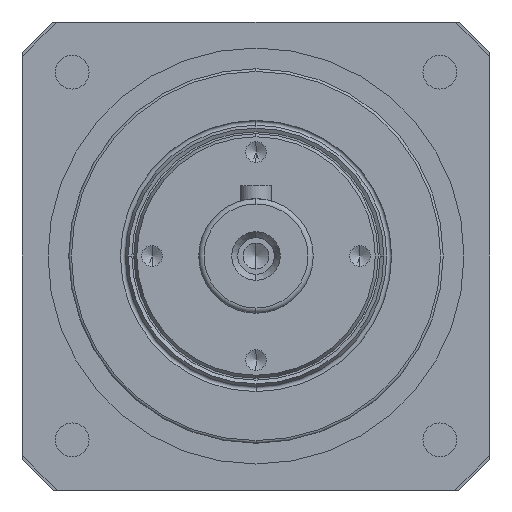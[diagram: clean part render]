
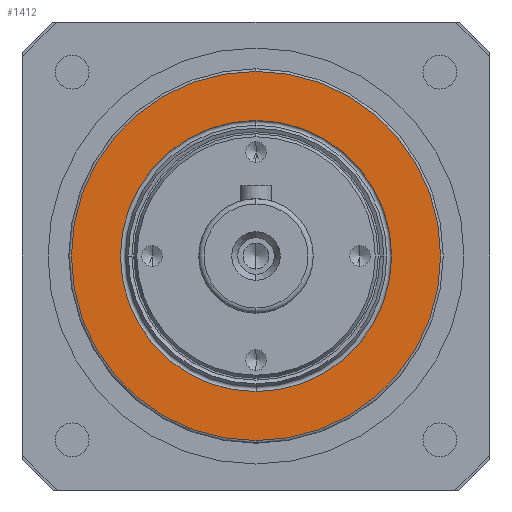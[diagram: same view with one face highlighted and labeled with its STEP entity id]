
A CAD part, left-side view. The second image highlights one B-rep face of the part: STEP entity #1412.
In plain terms, the highlighted planar face has unit normal (-1, 0, 0) as drawn and (0, -1, 0) by its records, which use the part's own axes.
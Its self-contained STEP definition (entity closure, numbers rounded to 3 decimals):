
#1412 = ADVANCED_FACE ( 'NONE', ( #20452, #22853 ), #10276, .T. ) ;
#2606 = AXIS2_PLACEMENT_3D ( 'NONE', #32968, #2620, #7053 ) ;
#2620 = DIRECTION ( 'NONE',  ( 0., -1., 0. ) ) ;
#2801 = VERTEX_POINT ( 'NONE', #7688 ) ;
#2873 = CIRCLE ( 'NONE', #30031, 26.073 ) ;
#3351 = DIRECTION ( 'NONE',  ( 0., 0., 1. ) ) ;
#3381 = DIRECTION ( 'NONE',  ( 0., -1., 0. ) ) ;
#3418 = CARTESIAN_POINT ( 'NONE',  ( 0., 0., 0. ) ) ;
#3687 = EDGE_CURVE ( 'NONE', #13312, #2801, #24610, .T. ) ;
#5017 = DIRECTION ( 'NONE',  ( 0., 1., 0. ) ) ;
#5051 = DIRECTION ( 'NONE',  ( 0., 0., 1. ) ) ;
#5405 = CIRCLE ( 'NONE', #14574, 35.5 ) ;
#5768 = CARTESIAN_POINT ( 'NONE',  ( 0., 0., 26.073 ) ) ;
#6124 = EDGE_CURVE ( 'NONE', #30075, #26554, #5405, .T. ) ;
#7053 = DIRECTION ( 'NONE',  ( 0., 0., -1. ) ) ;
#7453 = DIRECTION ( 'NONE',  ( 0., 0., 1. ) ) ;
#7465 = DIRECTION ( 'NONE',  ( 0., -1., 0. ) ) ;
#7506 = CARTESIAN_POINT ( 'NONE',  ( 0., 0., 0. ) ) ;
#7688 = CARTESIAN_POINT ( 'NONE',  ( 0., 0., -26.073 ) ) ;
#8740 = ORIENTED_EDGE ( 'NONE', *, *, #6124, .T. ) ;
#9236 = CIRCLE ( 'NONE', #35273, 35.5 ) ;
#9491 = ORIENTED_EDGE ( 'NONE', *, *, #17563, .T. ) ;
#10240 = CARTESIAN_POINT ( 'NONE',  ( 0., 0., 35.5 ) ) ;
#10276 = PLANE ( 'NONE',  #2606 ) ;
#13312 = VERTEX_POINT ( 'NONE', #5768 ) ;
#14574 = AXIS2_PLACEMENT_3D ( 'NONE', #3418, #3381, #3351 ) ;
#16588 = DIRECTION ( 'NONE',  ( 0., 0., 1. ) ) ;
#16638 = DIRECTION ( 'NONE',  ( 0., 1., 0. ) ) ;
#16671 = CARTESIAN_POINT ( 'NONE',  ( 0., 0., 0. ) ) ;
#17563 = EDGE_CURVE ( 'NONE', #2801, #13312, #2873, .T. ) ;
#20428 = EDGE_CURVE ( 'NONE', #26554, #30075, #9236, .T. ) ;
#20452 = FACE_BOUND ( 'NONE', #31257, .T. ) ;
#21221 = ORIENTED_EDGE ( 'NONE', *, *, #3687, .T. ) ;
#22853 = FACE_OUTER_BOUND ( 'NONE', #29322, .T. ) ;
#23367 = ORIENTED_EDGE ( 'NONE', *, *, #20428, .T. ) ;
#24610 = CIRCLE ( 'NONE', #32372, 26.073 ) ;
#25618 = CARTESIAN_POINT ( 'NONE',  ( 0., 0., 0. ) ) ;
#26554 = VERTEX_POINT ( 'NONE', #33407 ) ;
#29322 = EDGE_LOOP ( 'NONE', ( #8740, #23367 ) ) ;
#30031 = AXIS2_PLACEMENT_3D ( 'NONE', #16671, #16638, #16588 ) ;
#30075 = VERTEX_POINT ( 'NONE', #10240 ) ;
#31257 = EDGE_LOOP ( 'NONE', ( #21221, #9491 ) ) ;
#32372 = AXIS2_PLACEMENT_3D ( 'NONE', #25618, #5017, #5051 ) ;
#32968 = CARTESIAN_POINT ( 'NONE',  ( 0., 0., 35.5 ) ) ;
#33407 = CARTESIAN_POINT ( 'NONE',  ( 0., 0., -35.5 ) ) ;
#35273 = AXIS2_PLACEMENT_3D ( 'NONE', #7506, #7465, #7453 ) ;
